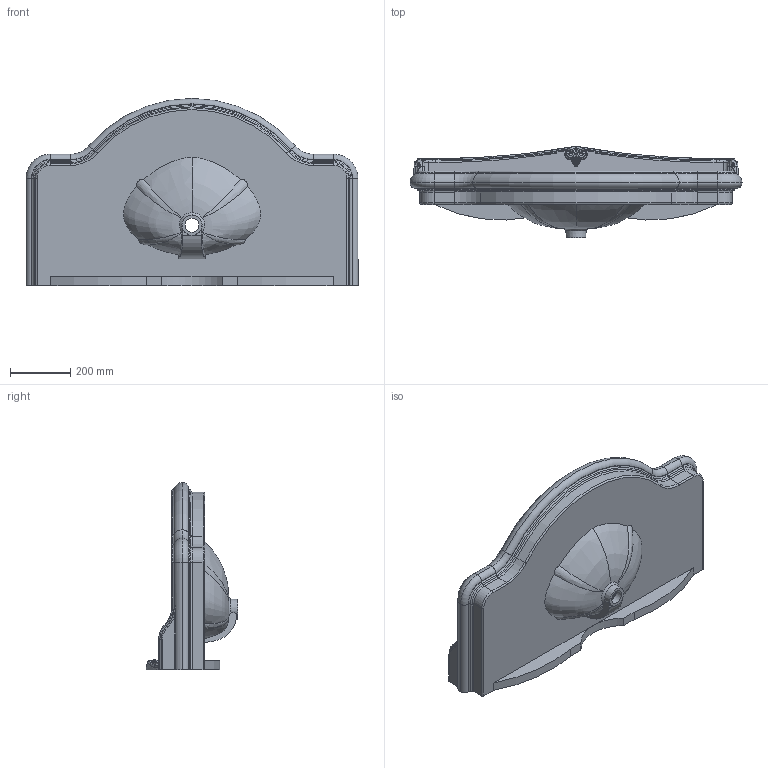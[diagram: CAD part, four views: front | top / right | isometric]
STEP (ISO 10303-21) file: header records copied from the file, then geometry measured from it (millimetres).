
FILE_DESCRIPTION (( 'STEP AP214' ), '1' );
FILE_NAME ('JUB200 110.STEP', '2017-12-12T06:42:40', ( '' ), ( '' ), 'SwSTEP 2.0', 'SolidWorks 2018', '' );
FILE_SCHEMA (( 'AUTOMOTIVE_DESIGN' ));
Length unit declared in the file: millimetre
Products named in the file (1): JUB200 110
Bounding box: 1100 x 303.1 x 620 mm (x, y, z)
Volume: 45594752.9 mm3; surface area: 1783035.7 mm2
Topology: 1 solids, 1 shells, 507 faces, 1207 edges, 698 vertices
Faces by surface type: bspline 240, cylinder 117, torus 90, plane 42, sphere 14, cone 4
Full cylindrical faces by diameter (mm): 20 x1, 35 x3, 46 x1
Entity records: 64397 total; most frequent: CARTESIAN_POINT 54481, ORIENTED_EDGE 2372, DIRECTION 1703, EDGE_CURVE 1186, AXIS2_PLACEMENT_3D 756, VERTEX_POINT 695, EDGE_LOOP 523, FACE_OUTER_BOUND 513
